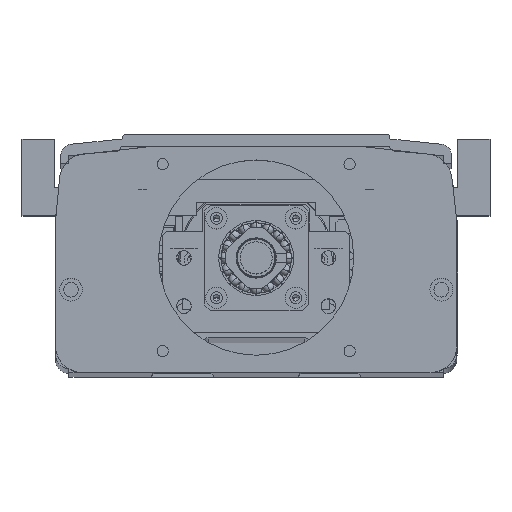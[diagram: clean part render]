
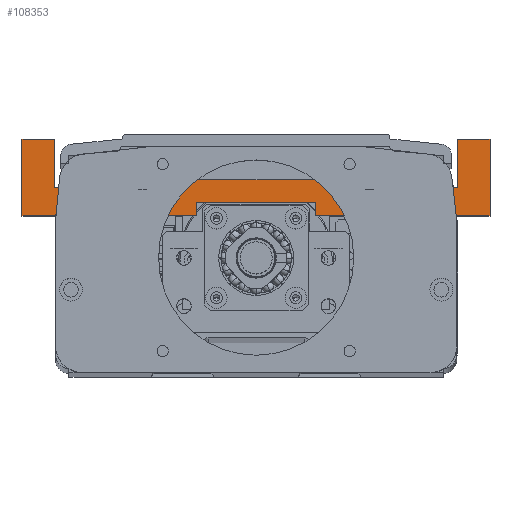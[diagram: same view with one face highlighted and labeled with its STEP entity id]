
A CAD part, top view. The second image highlights one B-rep face of the part: STEP entity #108353.
In plain terms, the highlighted planar face has unit normal (0, 0, 1).
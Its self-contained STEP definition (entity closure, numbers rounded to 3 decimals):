
#187 = ORIENTED_EDGE ( 'NONE', *, *, #8914, .T. ) ;
#305 = VERTEX_POINT ( 'NONE', #34279 ) ;
#3030 = VECTOR ( 'NONE', #102920, 1000. ) ;
#3629 = CARTESIAN_POINT ( 'NONE',  ( 117.709, -63.676, 150. ) ) ;
#4076 = VECTOR ( 'NONE', #89565, 1000. ) ;
#5226 = CARTESIAN_POINT ( 'NONE',  ( -36.791, -53.176, 150. ) ) ;
#6402 = ORIENTED_EDGE ( 'NONE', *, *, #78393, .T. ) ;
#8085 = LINE ( 'NONE', #102758, #73365 ) ;
#8914 = EDGE_CURVE ( 'NONE', #36827, #11031, #74171, .T. ) ;
#10051 = VERTEX_POINT ( 'NONE', #5226 ) ;
#10111 = EDGE_CURVE ( 'NONE', #10051, #305, #43567, .T. ) ;
#11031 = VERTEX_POINT ( 'NONE', #83581 ) ;
#13826 = DIRECTION ( 'NONE',  ( 0., -1., 0. ) ) ;
#14313 = DIRECTION ( 'NONE',  ( 0., 1., 0. ) ) ;
#14395 = CARTESIAN_POINT ( 'NONE',  ( 105.709, -35.176, 150. ) ) ;
#14854 = LINE ( 'NONE', #19860, #106587 ) ;
#15907 = EDGE_CURVE ( 'NONE', #45816, #10051, #89079, .T. ) ;
#16917 = ORIENTED_EDGE ( 'NONE', *, *, #75473, .T. ) ;
#17629 = VERTEX_POINT ( 'NONE', #87886 ) ;
#18561 = VERTEX_POINT ( 'NONE', #32203 ) ;
#19016 = VECTOR ( 'NONE', #81979, 1000. ) ;
#19145 = ORIENTED_EDGE ( 'NONE', *, *, #64091, .T. ) ;
#19837 = CARTESIAN_POINT ( 'NONE',  ( -57.291, -63.676, 150. ) ) ;
#19860 = CARTESIAN_POINT ( 'NONE',  ( -45.291, -35.176, 150. ) ) ;
#20121 = ORIENTED_EDGE ( 'NONE', *, *, #109328, .T. ) ;
#21535 = EDGE_CURVE ( 'NONE', #42927, #67543, #57239, .T. ) ;
#21695 = EDGE_CURVE ( 'NONE', #67543, #110963, #101688, .T. ) ;
#22324 = CARTESIAN_POINT ( 'NONE',  ( -57.291, -53.176, 150. ) ) ;
#24796 = VECTOR ( 'NONE', #49599, 1000. ) ;
#26347 = LINE ( 'NONE', #39339, #91647 ) ;
#26672 = VERTEX_POINT ( 'NONE', #65686 ) ;
#27558 = LINE ( 'NONE', #93892, #24796 ) ;
#29210 = LINE ( 'NONE', #52540, #97330 ) ;
#29778 = ORIENTED_EDGE ( 'NONE', *, *, #76137, .T. ) ;
#30028 = CARTESIAN_POINT ( 'NONE',  ( 7.959, -63.676, 150. ) ) ;
#31240 = DIRECTION ( 'NONE',  ( -1., 0., 0. ) ) ;
#32203 = CARTESIAN_POINT ( 'NONE',  ( -45.291, -35.176, 150. ) ) ;
#33597 = VECTOR ( 'NONE', #31240, 1000. ) ;
#33798 = CARTESIAN_POINT ( 'NONE',  ( -36.791, -63.676, 150. ) ) ;
#34279 = CARTESIAN_POINT ( 'NONE',  ( -45.291, -53.176, 150. ) ) ;
#36694 = VERTEX_POINT ( 'NONE', #30028 ) ;
#36827 = VERTEX_POINT ( 'NONE', #3629 ) ;
#37262 = CARTESIAN_POINT ( 'NONE',  ( 7.959, -58.676, 150. ) ) ;
#38511 = EDGE_CURVE ( 'NONE', #98437, #94989, #71541, .T. ) ;
#39339 = CARTESIAN_POINT ( 'NONE',  ( 7.959, -58.676, 150. ) ) ;
#40380 = ORIENTED_EDGE ( 'NONE', *, *, #38511, .F. ) ;
#42756 = DIRECTION ( 'NONE',  ( 0., -1., 0. ) ) ;
#42927 = VERTEX_POINT ( 'NONE', #63189 ) ;
#43567 = LINE ( 'NONE', #67361, #88047 ) ;
#44988 = VERTEX_POINT ( 'NONE', #14395 ) ;
#45396 = CARTESIAN_POINT ( 'NONE',  ( -57.291, -35.176, 150. ) ) ;
#45816 = VERTEX_POINT ( 'NONE', #72575 ) ;
#46709 = ORIENTED_EDGE ( 'NONE', *, *, #21535, .T. ) ;
#47910 = VECTOR ( 'NONE', #14313, 1000. ) ;
#48338 = DIRECTION ( 'NONE',  ( 1., 0., 0. ) ) ;
#49599 = DIRECTION ( 'NONE',  ( 1., 0., 0. ) ) ;
#49733 = CARTESIAN_POINT ( 'NONE',  ( -45.291, -50.176, 150. ) ) ;
#49893 = CARTESIAN_POINT ( 'NONE',  ( 97.209, -63.676, 150. ) ) ;
#50289 = LINE ( 'NONE', #49733, #3030 ) ;
#50581 = VECTOR ( 'NONE', #65545, 1000. ) ;
#51349 = LINE ( 'NONE', #63514, #4076 ) ;
#51647 = VECTOR ( 'NONE', #54332, 1000. ) ;
#52540 = CARTESIAN_POINT ( 'NONE',  ( 105.709, -35.176, 150. ) ) ;
#54332 = DIRECTION ( 'NONE',  ( -1., 0., 0. ) ) ;
#54475 = VECTOR ( 'NONE', #59201, 1000. ) ;
#54843 = VERTEX_POINT ( 'NONE', #37262 ) ;
#57239 = LINE ( 'NONE', #22324, #33597 ) ;
#57572 = EDGE_LOOP ( 'NONE', ( #75698, #83934, #40380, #19145, #187, #80469, #6402, #46709, #68863, #16917, #78449, #60181, #20121, #29778, #103312, #88259 ) ) ;
#59201 = DIRECTION ( 'NONE',  ( 0., 1., 0. ) ) ;
#60181 = ORIENTED_EDGE ( 'NONE', *, *, #10111, .T. ) ;
#61470 = DIRECTION ( 'NONE',  ( -1., 0., 0. ) ) ;
#62741 = VECTOR ( 'NONE', #61470, 1000. ) ;
#63189 = CARTESIAN_POINT ( 'NONE',  ( 105.709, -53.176, 150. ) ) ;
#63514 = CARTESIAN_POINT ( 'NONE',  ( 105.709, -35.176, 150. ) ) ;
#63554 = FACE_OUTER_BOUND ( 'NONE', #57572, .T. ) ;
#64091 = EDGE_CURVE ( 'NONE', #98437, #36827, #87126, .T. ) ;
#65392 = VECTOR ( 'NONE', #42756, 1000. ) ;
#65545 = DIRECTION ( 'NONE',  ( 0., 1., 0. ) ) ;
#65686 = CARTESIAN_POINT ( 'NONE',  ( -57.291, -63.676, 150. ) ) ;
#65770 = DIRECTION ( 'NONE',  ( 0., -1., 0. ) ) ;
#65959 = CARTESIAN_POINT ( 'NONE',  ( 97.209, -50.176, 150. ) ) ;
#67361 = CARTESIAN_POINT ( 'NONE',  ( -57.291, -53.176, 150. ) ) ;
#67543 = VERTEX_POINT ( 'NONE', #90627 ) ;
#68863 = ORIENTED_EDGE ( 'NONE', *, *, #21695, .T. ) ;
#71541 = LINE ( 'NONE', #76457, #47910 ) ;
#72575 = CARTESIAN_POINT ( 'NONE',  ( -36.791, -50.176, 150. ) ) ;
#72938 = AXIS2_PLACEMENT_3D ( 'NONE', #83680, #101522, #48338 ) ;
#73365 = VECTOR ( 'NONE', #13826, 1000. ) ;
#74171 = LINE ( 'NONE', #109833, #50581 ) ;
#75473 = EDGE_CURVE ( 'NONE', #110963, #45816, #50289, .T. ) ;
#75698 = ORIENTED_EDGE ( 'NONE', *, *, #80064, .F. ) ;
#76137 = EDGE_CURVE ( 'NONE', #18561, #17629, #98885, .T. ) ;
#76293 = DIRECTION ( 'NONE',  ( -1., 0., 0. ) ) ;
#76457 = CARTESIAN_POINT ( 'NONE',  ( 52.459, -58.676, 150. ) ) ;
#78113 = CARTESIAN_POINT ( 'NONE',  ( 52.459, -63.676, 150. ) ) ;
#78393 = EDGE_CURVE ( 'NONE', #44988, #42927, #29210, .T. ) ;
#78449 = ORIENTED_EDGE ( 'NONE', *, *, #15907, .T. ) ;
#79522 = CARTESIAN_POINT ( 'NONE',  ( 52.459, -58.676, 150. ) ) ;
#80064 = EDGE_CURVE ( 'NONE', #54843, #36694, #26347, .T. ) ;
#80469 = ORIENTED_EDGE ( 'NONE', *, *, #83453, .T. ) ;
#81979 = DIRECTION ( 'NONE',  ( 1., 0., 0. ) ) ;
#82372 = DIRECTION ( 'NONE',  ( 0., 1., 0. ) ) ;
#82595 = EDGE_CURVE ( 'NONE', #26672, #36694, #27558, .T. ) ;
#83298 = PLANE ( 'NONE',  #72938 ) ;
#83453 = EDGE_CURVE ( 'NONE', #11031, #44988, #51349, .T. ) ;
#83581 = CARTESIAN_POINT ( 'NONE',  ( 117.709, -35.176, 150. ) ) ;
#83680 = CARTESIAN_POINT ( 'NONE',  ( -57.291, -63.676, 150. ) ) ;
#83934 = ORIENTED_EDGE ( 'NONE', *, *, #105447, .F. ) ;
#85704 = EDGE_CURVE ( 'NONE', #17629, #26672, #8085, .T. ) ;
#87126 = LINE ( 'NONE', #19837, #19016 ) ;
#87886 = CARTESIAN_POINT ( 'NONE',  ( -57.291, -35.176, 150. ) ) ;
#88047 = VECTOR ( 'NONE', #76293, 1000. ) ;
#88259 = ORIENTED_EDGE ( 'NONE', *, *, #82595, .T. ) ;
#89079 = LINE ( 'NONE', #33798, #65392 ) ;
#89171 = LINE ( 'NONE', #114700, #62741 ) ;
#89565 = DIRECTION ( 'NONE',  ( -1., 0., 0. ) ) ;
#90627 = CARTESIAN_POINT ( 'NONE',  ( 97.209, -53.176, 150. ) ) ;
#91647 = VECTOR ( 'NONE', #65770, 1000. ) ;
#93892 = CARTESIAN_POINT ( 'NONE',  ( -57.291, -63.676, 150. ) ) ;
#94989 = VERTEX_POINT ( 'NONE', #79522 ) ;
#97330 = VECTOR ( 'NONE', #114304, 1000. ) ;
#98437 = VERTEX_POINT ( 'NONE', #78113 ) ;
#98885 = LINE ( 'NONE', #45396, #51647 ) ;
#101522 = DIRECTION ( 'NONE',  ( 0., 0., 1. ) ) ;
#101688 = LINE ( 'NONE', #49893, #54475 ) ;
#102758 = CARTESIAN_POINT ( 'NONE',  ( -57.291, -35.176, 150. ) ) ;
#102920 = DIRECTION ( 'NONE',  ( -1., 0., 0. ) ) ;
#103312 = ORIENTED_EDGE ( 'NONE', *, *, #85704, .T. ) ;
#105447 = EDGE_CURVE ( 'NONE', #94989, #54843, #89171, .T. ) ;
#106587 = VECTOR ( 'NONE', #82372, 1000. ) ;
#108353 = ADVANCED_FACE ( 'NONE', ( #63554 ), #83298, .T. ) ;
#109328 = EDGE_CURVE ( 'NONE', #305, #18561, #14854, .T. ) ;
#109833 = CARTESIAN_POINT ( 'NONE',  ( 117.709, -35.176, 150. ) ) ;
#110963 = VERTEX_POINT ( 'NONE', #65959 ) ;
#114304 = DIRECTION ( 'NONE',  ( 0., -1., 0. ) ) ;
#114700 = CARTESIAN_POINT ( 'NONE',  ( 7.959, -58.676, 150. ) ) ;
